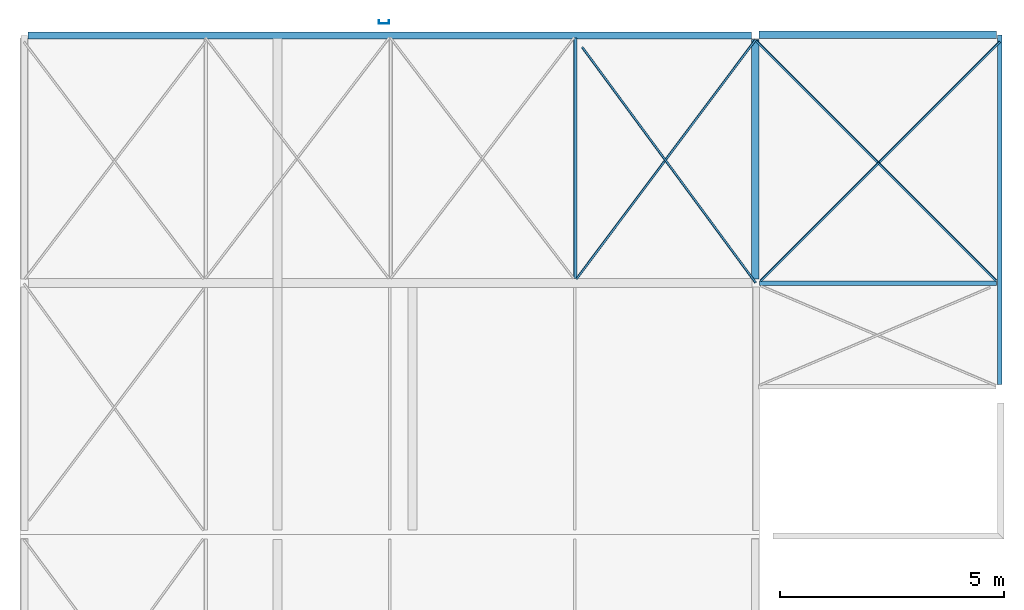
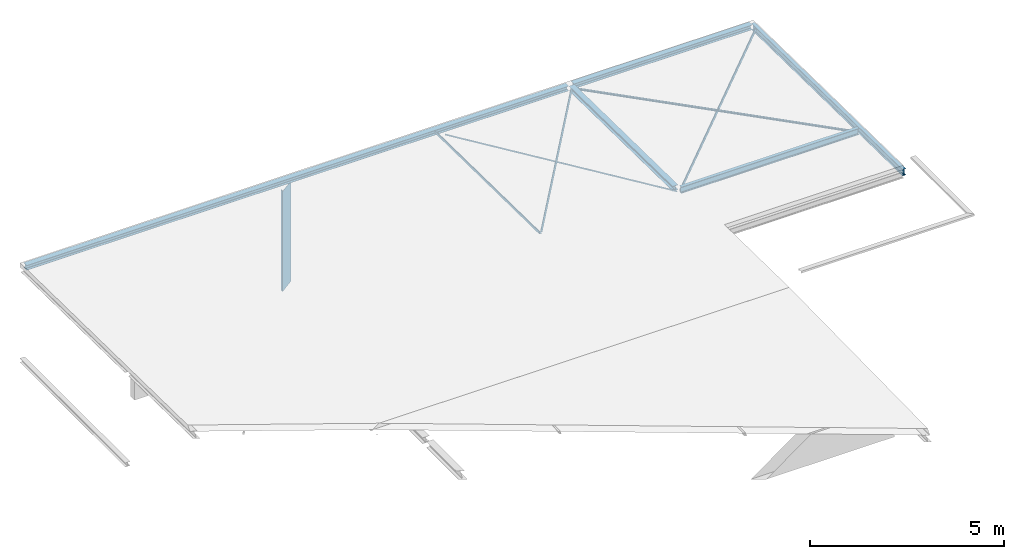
# One storey, part 4 of 5: 11 beams.
"""IFC2X3 building model written with IfcOpenShell, lengths in millimetres."""

from ifc_helpers import new_model, entity, si_unit, converted_unit, derived_unit, direction, frame, frame_2d, origin, place, context, subcontext, project, spatial, polyline, circle_curve, parameter, trimmed, segment, composite_curve, i_section, outline, extrude, clip, halfspace, material, type_object, element, save


model = new_model("IFC2X3")

# Units and contexts
model_context = context("Model", 3, precision=0.01, world=origin(), true_north=direction((6.123031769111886e-17, 1.0)))
plan_context = context("Plan", 3, precision=0.01, world=origin(), true_north=direction((6.123031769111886e-17, 1.0)))
body_context = subcontext(model_context, "Body", "Model", "MODEL_VIEW")
ifc_project = project(units=[si_unit("LENGTHUNIT", "METRE", prefix="MILLI"), si_unit("AREAUNIT", "SQUARE_METRE"), si_unit("VOLUMEUNIT", "CUBIC_METRE"), converted_unit("PLANEANGLEUNIT", "DEGREE", entity("IfcPlaneAngleMeasure", 0.017453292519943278), si_unit("PLANEANGLEUNIT", "RADIAN"), dimensions=[0, 0, 0, 0, 0, 0, 0]), si_unit("MASSUNIT", "GRAM", prefix="KILO"), derived_unit("MASSDENSITYUNIT", [(si_unit("MASSUNIT", "GRAM", prefix="KILO"), 1), (si_unit("LENGTHUNIT", "METRE"), -3)]), derived_unit("IONCONCENTRATIONUNIT", [(si_unit("MASSUNIT", "GRAM", prefix="KILO"), 1), (si_unit("LENGTHUNIT", "METRE"), -3)]), derived_unit("MOMENTOFINERTIAUNIT", [(si_unit("LENGTHUNIT", "METRE"), 4)]), si_unit("TIMEUNIT", "SECOND"), si_unit("FREQUENCYUNIT", "HERTZ"), si_unit("THERMODYNAMICTEMPERATUREUNIT", "DEGREE_CELSIUS"), derived_unit("THERMALTRANSMITTANCEUNIT", [(si_unit("MASSUNIT", "GRAM", prefix="KILO"), 1), (si_unit("THERMODYNAMICTEMPERATUREUNIT", "KELVIN"), -1), (si_unit("TIMEUNIT", "SECOND"), -3)]), derived_unit("THERMALCONDUCTANCEUNIT", [(si_unit("MASSUNIT", "GRAM", prefix="KILO"), 1), (si_unit("THERMODYNAMICTEMPERATUREUNIT", "KELVIN"), -1), (si_unit("TIMEUNIT", "SECOND"), -3), (si_unit("LENGTHUNIT", "METRE"), 1)]), derived_unit("VOLUMETRICFLOWRATEUNIT", [(si_unit("LENGTHUNIT", "METRE", prefix="DECI"), 3), (si_unit("TIMEUNIT", "SECOND"), -1)]), derived_unit("MASSFLOWRATEUNIT", [(si_unit("MASSUNIT", "GRAM", prefix="KILO"), 1), (si_unit("TIMEUNIT", "SECOND"), -1)]), derived_unit("ROTATIONALFREQUENCYUNIT", [(si_unit("TIMEUNIT", "SECOND"), -1)]), si_unit("ELECTRICCURRENTUNIT", "AMPERE"), si_unit("ELECTRICVOLTAGEUNIT", "VOLT"), si_unit("POWERUNIT", "WATT"), si_unit("FORCEUNIT", "NEWTON", prefix="KILO"), si_unit("ILLUMINANCEUNIT", "LUX"), si_unit("LUMINOUSFLUXUNIT", "LUMEN"), si_unit("LUMINOUSINTENSITYUNIT", "CANDELA"), si_unit("ENERGYUNIT", "JOULE"), derived_unit("USERDEFINED", [(si_unit("MASSUNIT", "GRAM", prefix="KILO"), -1), (si_unit("LENGTHUNIT", "METRE"), -2), (si_unit("TIMEUNIT", "SECOND"), 3), (si_unit("LUMINOUSFLUXUNIT", "LUMEN"), 1)]), derived_unit("USERDEFINED", [(si_unit("MASSUNIT", "GRAM", prefix="KILO"), 1), (si_unit("TIMEUNIT", "SECOND"), -3), (si_unit("LENGTHUNIT", "METRE"), 3), (si_unit("ELECTRICCURRENTUNIT", "AMPERE"), -2)]), derived_unit("SOUNDPOWERUNIT", [(si_unit("MASSUNIT", "GRAM", prefix="KILO"), 1), (si_unit("TIMEUNIT", "SECOND"), -3), (si_unit("LENGTHUNIT", "METRE"), 2)]), derived_unit("SOUNDPRESSUREUNIT", [(si_unit("MASSUNIT", "GRAM", prefix="KILO"), 1), (si_unit("LENGTHUNIT", "METRE"), -1), (si_unit("TIMEUNIT", "SECOND"), -2)]), derived_unit("LINEARVELOCITYUNIT", [(si_unit("LENGTHUNIT", "METRE"), 1), (si_unit("TIMEUNIT", "SECOND"), -1)]), si_unit("PRESSUREUNIT", "PASCAL"), derived_unit("USERDEFINED", [(si_unit("MASSUNIT", "GRAM", prefix="KILO"), 1), (si_unit("LENGTHUNIT", "METRE"), -2), (si_unit("TIMEUNIT", "SECOND"), -2)]), derived_unit("LINEARFORCEUNIT", [(si_unit("MASSUNIT", "GRAM", prefix="KILO"), 1), (si_unit("TIMEUNIT", "SECOND"), -2)]), derived_unit("PLANARFORCEUNIT", [(si_unit("MASSUNIT", "GRAM", prefix="KILO"), 1), (si_unit("LENGTHUNIT", "METRE"), -1), (si_unit("TIMEUNIT", "SECOND"), -2)]), derived_unit("SPECIFICHEATCAPACITYUNIT", [(si_unit("THERMODYNAMICTEMPERATUREUNIT", "KELVIN"), -1), (si_unit("LENGTHUNIT", "METRE"), 2), (si_unit("TIMEUNIT", "SECOND"), -2)]), derived_unit("HEATFLUXDENSITYUNIT", [(si_unit("MASSUNIT", "GRAM", prefix="KILO"), 1), (si_unit("TIMEUNIT", "SECOND"), -3)]), derived_unit("HEATINGVALUEUNIT", [(si_unit("LENGTHUNIT", "METRE"), 2), (si_unit("TIMEUNIT", "SECOND"), -2)]), derived_unit("VAPORPERMEABILITYUNIT", [(si_unit("LENGTHUNIT", "METRE"), -1), (si_unit("TIMEUNIT", "SECOND"), 1)]), derived_unit("DYNAMICVISCOSITYUNIT", [(si_unit("MASSUNIT", "GRAM", prefix="KILO"), 1), (si_unit("TIMEUNIT", "SECOND"), -1), (si_unit("LENGTHUNIT", "METRE"), -1)]), derived_unit("THERMALEXPANSIONCOEFFICIENTUNIT", [(si_unit("THERMODYNAMICTEMPERATUREUNIT", "KELVIN"), -1)]), derived_unit("MODULUSOFELASTICITYUNIT", [(si_unit("MASSUNIT", "GRAM", prefix="KILO"), 1), (si_unit("LENGTHUNIT", "METRE"), -1), (si_unit("TIMEUNIT", "SECOND"), -2)]), derived_unit("ISOTHERMALMOISTURECAPACITYUNIT", [(si_unit("MASSUNIT", "GRAM", prefix="KILO"), -1), (si_unit("LENGTHUNIT", "METRE"), 3)]), derived_unit("MOISTUREDIFFUSIVITYUNIT", [(si_unit("TIMEUNIT", "SECOND"), -1), (si_unit("LENGTHUNIT", "METRE"), 2)]), derived_unit("MASSPERLENGTHUNIT", [(si_unit("MASSUNIT", "GRAM", prefix="KILO"), 1), (si_unit("LENGTHUNIT", "METRE"), -1)]), derived_unit("THERMALRESISTANCEUNIT", [(si_unit("MASSUNIT", "GRAM", prefix="KILO"), -1), (si_unit("TIMEUNIT", "SECOND"), 3), (si_unit("THERMODYNAMICTEMPERATUREUNIT", "KELVIN"), 1)]), derived_unit("ACCELERATIONUNIT", [(si_unit("LENGTHUNIT", "METRE"), 1), (si_unit("TIMEUNIT", "SECOND"), -2)]), derived_unit("ANGULARVELOCITYUNIT", [(si_unit("TIMEUNIT", "SECOND"), -1), (si_unit("PLANEANGLEUNIT", "RADIAN"), 1)]), derived_unit("LINEARSTIFFNESSUNIT", [(si_unit("MASSUNIT", "GRAM", prefix="KILO"), 1), (si_unit("TIMEUNIT", "SECOND"), -2)]), derived_unit("WARPINGCONSTANTUNIT", [(si_unit("LENGTHUNIT", "METRE"), 6)]), derived_unit("LINEARMOMENTUNIT", [(si_unit("MASSUNIT", "GRAM", prefix="KILO"), 1), (si_unit("LENGTHUNIT", "METRE"), 1), (si_unit("TIMEUNIT", "SECOND"), -2)]), derived_unit("TORQUEUNIT", [(si_unit("MASSUNIT", "GRAM", prefix="KILO"), 1), (si_unit("LENGTHUNIT", "METRE"), 2), (si_unit("TIMEUNIT", "SECOND"), -2)])], contexts=[model_context, plan_context])

# Site, building, storey
site_placement = place(None, origin())
site = spatial("IfcSite", under=ifc_project, at=site_placement, Name="Default", CompositionType="ELEMENT")
building_placement = place(site_placement, origin())
building = spatial("IfcBuilding", under=site, at=building_placement, CompositionType="ELEMENT")
storey_placement = place(building_placement, frame((0.0, 0.0, 6700.0)))
storey = spatial("IfcBuildingStorey", under=building, at=storey_placement, Name="02 tweede verdieping", CompositionType="ELEMENT", Elevation=6700.000000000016)

# Beams
ifc_material = material(Name="constructiestaal S235")
beam_type_1 = type_object("IfcBeamType", Name="28_SF_LIB_HEA ligger_dw:HE160A (S235)", PredefinedType="NOTDEFINED")
beam_1_placement = place(storey_placement, frame((50491.19293735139, 33203.864096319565, 87.74133703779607), z_axis=(0.0, 0.01570731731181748, 0.9998766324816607), x_axis=(0.0, 0.9998766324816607, -0.01570731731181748)))
element("IfcBeam", 1, at=beam_1_placement, inside=storey, type_object=beam_type_1, material=ifc_material, Name="28_SF_LIB_HEA ligger_dw:HE160A (S235)", ObjectType="28_SF_LIB_HEA ligger_dw:HE160A (S235)", context=body_context, shape_type="SweptSolid", body=[
    extrude(i_section(OverallWidth=160.00000000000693, OverallDepth=152.000000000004, WebThickness=5.999999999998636, FlangeThickness=9.000000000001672, FilletRadius=14.999999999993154, at=frame_2d((0.0, 0.0), x_axis=(0.0, 1.0))), frame((0.0, 0.0, -76.0), z_axis=(1.0, 0.0, 0.0), x_axis=(0.0, 0.0, -1.0)), (0.0, 0.0, 1.0), 5358.574085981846),
])
beam_2_placement = place(storey_placement, frame((50576.19293735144, 38662.68059333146, 0.0)))
element("IfcBeam", 2, at=beam_2_placement, inside=storey, type_object=beam_type_1, material=ifc_material, Name="28_SF_LIB_HEA ligger_dw:HE160A (S235)", ObjectType="28_SF_LIB_HEA ligger_dw:HE160A (S235)", context=body_context, shape_type="SweptSolid", body=[
    extrude(i_section(OverallWidth=160.0000000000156, OverallDepth=152.00000000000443, WebThickness=5.999999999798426, FlangeThickness=9.000000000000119, FilletRadius=15.00000000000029, at=frame_2d((2.1671553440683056e-12, 6.501466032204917e-12), x_axis=(0.0, 1.0))), frame((0.0, 0.0, -76.0), z_axis=(1.0, 0.0, 0.0), x_axis=(0.0, 0.0, -1.0)), (0.0, 0.0, 1.0), 5310.000000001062),
])
beam_3_placement = place(storey_placement, frame((34266.19293735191, 38648.67050785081, 0.0)))
element("IfcBeam", 3, at=beam_3_placement, inside=storey, type_object=beam_type_1, material=ifc_material, Name="28_SF_LIB_HEA ligger_dw:HE160A (S235)", ObjectType="28_SF_LIB_HEA ligger_dw:HE160A (S235)", context=body_context, shape_type="SweptSolid", body=[
    extrude(i_section(OverallWidth=160.00000000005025, OverallDepth=152.00000000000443, WebThickness=5.999999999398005, FlangeThickness=9.000000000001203, FilletRadius=15.00000000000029, at=frame_2d((2.1671553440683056e-12, 2.1600499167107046e-12), x_axis=(0.0, 1.0))), frame((-19.718950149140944, 0.0, -76.0), z_axis=(1.0, 0.0, 0.0), x_axis=(0.0, 0.0, -1.0)), (0.0, 0.0, 1.0), 16159.922144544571),
])
beam_type_2 = type_object("IfcBeamType", Name="28_SF_LIB_L ligger gelijkbenig_dw:L80x80x6 (S235)", PredefinedType="NOTDEFINED")
beam_4_placement = place(storey_placement, frame((46456.192937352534, 33213.43683354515, 87.59095646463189), z_axis=(0.0, 0.01570731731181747, 0.9998766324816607), x_axis=(0.0, 0.9998766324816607, -0.01570731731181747)))
element("IfcBeam", 4, at=beam_4_placement, inside=storey, type_object=beam_type_2, material=ifc_material, Name="28_SF_LIB_L ligger gelijkbenig_dw:L80x80x6 (S235)", ObjectType="28_SF_LIB_L ligger gelijkbenig_dw:L80x80x6 (S235)", context=body_context, shape_type="SweptSolid", body=[
    extrude(outline(composite_curve([segment(polyline([(28.333333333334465, -50.66666666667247), (29.333333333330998, -50.66666666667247)]), True, "CONTINUOUS"), segment(polyline([(29.333333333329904, -50.66666666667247), (29.333333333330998, 29.333333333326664)]), True, "CONTINUOUS"), segment(polyline([(29.333333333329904, 29.333333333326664), (-50.66666666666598, 29.333333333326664)]), True, "CONTINUOUS"), segment(polyline([(-50.66666666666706, 29.333333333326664), (-50.66666666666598, 28.33333333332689)]), True, "CONTINUOUS"), segment(trimmed(circle_curve(frame_2d((-45.66666666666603, 28.33333333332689), x_axis=(-1.0, 0.0)), 5.000000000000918), [parameter(0.0)], [parameter(89.99999999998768)], True, "PARAMETER"), True, "CONTINUOUS"), segment(polyline([(-45.66666666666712, 23.333333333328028), (13.333333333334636, 23.333333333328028)]), True, "CONTINUOUS"), segment(trimmed(circle_curve(frame_2d((13.33333333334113, 13.333333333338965), x_axis=(0.0, 1.0)), 9.999999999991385), [parameter(269.99999999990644)], [parameter(0.0)], True, "PARAMETER"), False, "CONTINUOUS"), segment(polyline([(23.333333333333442, 13.333333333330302), (23.333333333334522, -45.666666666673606)]), True, "CONTINUOUS"), segment(trimmed(circle_curve(frame_2d((28.333333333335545, -45.666666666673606), x_axis=(-1.0, 0.0)), 5.000000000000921), [parameter(0.0)], [parameter(89.99999999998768)], True, "PARAMETER"), True, "CONTINUOUS")], self_intersect=False)), frame((0.0, -6.793418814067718, -83.21666666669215), z_axis=(1.0, 0.0, 0.0), x_axis=(0.0, 0.0, -1.0)), (0.0, 0.0, 1.0), 5383.500167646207),
])
beam_type_3 = type_object("IfcBeamType", Name="28_SF_LIB_IPE ligger_dw:IPE200 (S235)", PredefinedType="NOTDEFINED")
beam_5_placement = place(storey_placement, frame((55951.192937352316, 30849.29998579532, 124.72978582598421), z_axis=(0.0, 0.01570731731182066, 0.9998766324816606), x_axis=(0.0, 0.9998766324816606, -0.01570731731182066)))
element("IfcBeam", 5, at=beam_5_placement, inside=storey, type_object=beam_type_3, material=ifc_material, Name="28_SF_LIB_IPE ligger_dw:IPE200 (S235)", ObjectType="28_SF_LIB_IPE ligger_dw:IPE200 (S235)", context=body_context, shape_type="SweptSolid", body=[
    extrude(i_section(OverallWidth=99.99999999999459, OverallDepth=200.0000000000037, WebThickness=5.599999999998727, FlangeThickness=8.500000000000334, FilletRadius=11.99999999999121, at=frame_2d((1.0800249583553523e-12, -8.665068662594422e-12), x_axis=(0.0, 1.0))), frame((0.0, -0.010085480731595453, -100.0), z_axis=(1.0, 0.0, 0.0), x_axis=(0.0, 0.0, -1.0)), (0.0, 0.0, 1.0), 7811.850167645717),
])
beam_6_placement = place(storey_placement, frame((50567.19293735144, 33112.68042568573, 87.12979065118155)))
element("IfcBeam", 6, at=beam_6_placement, inside=storey, type_object=beam_type_3, material=ifc_material, Name="28_SF_LIB_IPE ligger_dw:IPE200 (S235)", ObjectType="28_SF_LIB_IPE ligger_dw:IPE200 (S235)", context=body_context, shape_type="SweptSolid", body=[
    extrude(i_section(OverallWidth=100.00000000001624, OverallDepth=200.00000000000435, WebThickness=5.5999999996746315, FlangeThickness=8.500000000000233, FilletRadius=12.00000000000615, at=frame_2d((2.1671553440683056e-12, 6.497913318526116e-12), x_axis=(0.0, 1.0))), frame((19.0, -0.010085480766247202, -100.0), z_axis=(1.0, 0.0, 0.0), x_axis=(0.0, 0.0, -1.0)), (0.0, 0.0, 1.0), 5300.000000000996),
])
beam_type_4 = type_object("IfcBeamType", Name="28_SF_LIB_L ligger gelijkbenig_dw:L50x50x5 (S235)", PredefinedType="NOTDEFINED")
beam_7_placement = place(storey_placement, frame((46486.20302283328, 33212.612199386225, 35.09743325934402), z_axis=(0.006735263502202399, 0.008995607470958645, 0.9999368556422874), x_axis=(0.5993103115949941, 0.8004379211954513, -0.011237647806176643)))
element("IfcBeam", 7, at=beam_7_placement, inside=storey, type_object=beam_type_4, material=ifc_material, Name="28_SF_LIB_L ligger gelijkbenig_dw:L50x50x5 (S235)", ObjectType="28_SF_LIB_L ligger gelijkbenig_dw:L50x50x5 (S235)", context=body_context, shape_type="SweptSolid", body=[
    extrude(outline(composite_curve([segment(polyline([(17.38888888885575, -31.111111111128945), (18.88888888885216, -31.111111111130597)]), True, "CONTINUOUS"), segment(polyline([(18.88888888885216, -31.111111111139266), (18.888888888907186, 18.888888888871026)]), True, "CONTINUOUS"), segment(polyline([(18.888888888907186, 18.88888888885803), (-31.111111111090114, 18.88888888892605)]), True, "CONTINUOUS"), segment(polyline([(-31.111111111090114, 18.88888888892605), (-31.11111111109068, 17.38888888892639)]), True, "CONTINUOUS"), segment(trimmed(circle_curve(frame_2d((-27.611111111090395, 17.38888888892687), x_axis=(-1.0, 0.0)), 3.5000000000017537), [parameter(0.0)], [parameter(89.99999999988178)], True, "PARAMETER"), True, "CONTINUOUS"), segment(polyline([(-27.611111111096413, 13.888888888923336), (6.888888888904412, 13.888888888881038)]), True, "CONTINUOUS"), segment(trimmed(circle_curve(frame_2d((6.88888888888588, 6.888888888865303), x_axis=(0.0, 1.0)), 7.000000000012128), [parameter(270.00000000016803)], [parameter(0.0)], True, "PARAMETER"), False, "CONTINUOUS"), segment(polyline([(13.888888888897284, 6.888888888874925), (13.888888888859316, -27.61111111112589)]), True, "CONTINUOUS"), segment(trimmed(circle_curve(frame_2d((17.38888888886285, -27.61111111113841), x_axis=(-1.0, 0.0)), 3.500000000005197), [parameter(0.0)], [parameter(89.9999999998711)], True, "PARAMETER"), True, "CONTINUOUS")], self_intersect=False)), frame((0.0, -4.858974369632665, 4.848888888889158), z_axis=(1.0, 0.0, 0.0), x_axis=(0.0, 0.0, -1.0)), (0.0, 0.0, 1.0), 6682.664784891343),
])
beam_8_placement = place(storey_placement, frame((50491.19293735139, 33115.92034020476, -40.0), z_axis=(-0.0040922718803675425, 0.0055567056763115, 0.9999761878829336), x_axis=(-0.5929836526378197, 0.8051849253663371, -0.00690099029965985)))
element("IfcBeam", 8, at=beam_8_placement, inside=storey, type_object=beam_type_4, material=ifc_material, Name="28_SF_LIB_L ligger gelijkbenig_dw:L50x50x5 (S235)", ObjectType="28_SF_LIB_L ligger gelijkbenig_dw:L50x50x5 (S235)", context=body_context, shape_type="SweptSolid", body=[
    extrude(outline(composite_curve([segment(polyline([(17.388888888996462, -31.111111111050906), (18.88888888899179, -31.111111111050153)]), True, "CONTINUOUS"), segment(polyline([(18.88888888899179, -31.111111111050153), (18.88888888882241, 18.88888888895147)]), True, "CONTINUOUS"), segment(polyline([(18.88888888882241, 18.88888888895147), (-31.111111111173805, 18.88888888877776)]), True, "CONTINUOUS"), segment(polyline([(-31.111111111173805, 18.888888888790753), (-31.111111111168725, 17.388888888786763)]), True, "CONTINUOUS"), segment(trimmed(circle_curve(frame_2d((-27.61111111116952, 17.38888888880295), x_axis=(-1.0, 0.0)), 3.500000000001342), [parameter(0.0)], [parameter(89.99999999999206)], True, "PARAMETER"), True, "CONTINUOUS"), segment(polyline([(-27.611111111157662, 13.888888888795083), (6.888888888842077, 13.888888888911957)]), True, "CONTINUOUS"), segment(trimmed(circle_curve(frame_2d((6.888888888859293, 6.888888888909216), x_axis=(0.0, 1.0)), 7.000000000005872), [parameter(270.0000000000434)], [parameter(0.0)], True, "PARAMETER"), False, "CONTINUOUS"), segment(polyline([(13.888888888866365, 6.888888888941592), (13.888888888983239, -27.611111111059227)]), True, "CONTINUOUS"), segment(trimmed(circle_curve(frame_2d((17.38888888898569, -27.611111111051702), x_axis=(-1.0, 0.0)), 3.5000000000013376), [parameter(0.0)], [parameter(89.99999999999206)], True, "PARAMETER"), True, "CONTINUOUS")], self_intersect=False)), frame((0.0, -4.858974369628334, 4.848888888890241), z_axis=(1.0, 0.0, 0.0), x_axis=(0.0, 0.0, -1.0)), (0.0, 0.0, 1.0), 6536.5946527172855),
])
beam_9_placement = place(storey_placement, frame((50586.1929373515, 33152.67048547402, 0.0), z_axis=(0.0, 0.0, 1.0), x_axis=(0.7071067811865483, 0.7071067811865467, 0.0)))
element("IfcBeam", 9, at=beam_9_placement, inside=storey, type_object=beam_type_4, material=ifc_material, Name="28_SF_LIB_L ligger gelijkbenig_dw:L50x50x5 (S235)", ObjectType="28_SF_LIB_L ligger gelijkbenig_dw:L50x50x5 (S235)", context=body_context, shape_type="SweptSolid", body=[
    extrude(outline(composite_curve([segment(polyline([(17.388888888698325, -31.111111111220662), (18.888888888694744, -31.111111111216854)]), True, "CONTINUOUS"), segment(polyline([(18.888888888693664, -31.11111111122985), (18.888888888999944, 18.88888888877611)]), True, "CONTINUOUS"), segment(polyline([(18.888888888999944, 18.88888888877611), (-31.111111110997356, 18.888888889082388)]), True, "CONTINUOUS"), segment(polyline([(-31.111111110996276, 18.888888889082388), (-31.111111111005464, 17.38888888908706)]), True, "CONTINUOUS"), segment(trimmed(circle_curve(frame_2d((-27.611111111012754, 17.388888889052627), x_axis=(-1.0, 0.0)), 3.4999999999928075), [parameter(0.0)], [parameter(90.00000000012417)], True, "PARAMETER"), True, "CONTINUOUS"), segment(polyline([(-27.611111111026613, 13.888888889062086), (6.888888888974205, 13.888888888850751)]), True, "CONTINUOUS"), segment(trimmed(circle_curve(frame_2d((6.888888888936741, 6.888888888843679), x_axis=(0.0, 1.0)), 6.999999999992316), [parameter(269.99999999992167)], [parameter(0.0)], True, "PARAMETER"), False, "CONTINUOUS"), segment(polyline([(13.888888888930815, 6.888888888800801), (13.88888888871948, -27.611111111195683)]), True, "CONTINUOUS"), segment(trimmed(circle_curve(frame_2d((17.38888888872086, -27.611111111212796), x_axis=(-1.0, 0.0)), 3.5000000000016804), [parameter(0.0)], [parameter(89.99999999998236)], True, "PARAMETER"), True, "CONTINUOUS")], self_intersect=False)), frame((26.729914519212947, -4.858974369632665, -85.15111111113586), z_axis=(1.0, 0.0, 0.0), x_axis=(0.0, 0.0, -1.0)), (0.0, 0.0, 1.0), 7560.38919553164),
])
beam_10_placement = place(storey_placement, frame((55941.350557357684, 33115.800031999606, 0.0), z_axis=(0.0, 0.0, 1.0), x_axis=(-0.7071067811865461, 0.707106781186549, 0.0)))
element("IfcBeam", 10, at=beam_10_placement, inside=storey, type_object=beam_type_4, material=ifc_material, Name="28_SF_LIB_L ligger gelijkbenig_dw:L50x50x5 (S235)", ObjectType="28_SF_LIB_L ligger gelijkbenig_dw:L50x50x5 (S235)", context=body_context, shape_type="SweptSolid", body=[
    extrude(outline(composite_curve([segment(polyline([(-31.11111111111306, -18.888888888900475), (18.88888888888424, -18.888888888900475)]), True, "CONTINUOUS"), segment(polyline([(18.88888888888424, -18.888888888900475), (18.88888888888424, 31.111111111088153)]), True, "CONTINUOUS"), segment(polyline([(18.88888888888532, 31.111111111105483), (17.3888888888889, 31.111111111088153)]), True, "CONTINUOUS"), segment(trimmed(circle_curve(frame_2d((17.388888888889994, 27.611111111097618), x_axis=(0.0, 1.0)), 3.500000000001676), [parameter(0.0)], [parameter(90.0000000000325)], True, "PARAMETER"), True, "CONTINUOUS"), segment(polyline([(13.888888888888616, 27.611111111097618), (13.888888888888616, -6.888888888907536)]), True, "CONTINUOUS"), segment(trimmed(circle_curve(frame_2d((6.888888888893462, -6.888888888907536), x_axis=(1.0, 0.0)), 6.999999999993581), [parameter(269.9999999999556)], [parameter(0.0)], True, "PARAMETER"), False, "CONTINUOUS"), segment(polyline([(6.888888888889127, -13.888888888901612), (-27.61111111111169, -13.888888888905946)]), True, "CONTINUOUS"), segment(trimmed(circle_curve(frame_2d((-27.611111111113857, -17.38888888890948), x_axis=(0.0, 1.0)), 3.499999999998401), [parameter(0.0)], [parameter(90.00000000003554)], True, "PARAMETER"), True, "CONTINUOUS"), segment(polyline([(-31.11111111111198, -17.38888888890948), (-31.11111111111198, -18.888888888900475)]), True, "CONTINUOUS")], self_intersect=False)), frame((84.27828879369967, 4.858974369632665, -85.15111111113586), z_axis=(1.0, 0.0, 0.0), x_axis=(0.0, 0.0, -1.0)), (0.0, 0.0, 1.0), 7597.161107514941),
])
beam_type_5 = type_object("IfcBeamType", Name="28_SF_LIB_UNP ligger_dw:UNP240 (S235)", PredefinedType="NOTDEFINED")
beam_11_placement = place(storey_placement, frame((42316.192937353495, 38930.03050784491, -370.0), z_axis=(1.0, 0.0, 0.0), x_axis=(0.0, 0.0, -1.0)))
element("IfcBeam", 11, at=beam_11_placement, inside=storey, type_object=beam_type_5, material=ifc_material, Name="28_SF_LIB_UNP ligger_dw:UNP240 (S235)", ObjectType="28_SF_LIB_UNP ligger_dw:UNP240 (S235)", context=body_context, shape_type="SweptSolid", body=[
    clip(clip(extrude(outline(composite_curve([segment(polyline([(-120.06239725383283, -46.750000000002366), (119.93760274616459, -46.750000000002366)]), True, "CONTINUOUS"), segment(polyline([(119.93760274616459, -46.750000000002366), (119.93760274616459, 38.24999999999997)]), True, "CONTINUOUS"), segment(polyline([(119.93760274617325, 38.24999999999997), (113.99770177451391, 38.24999999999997)]), True, "CONTINUOUS"), segment(trimmed(circle_curve(frame_2d((113.99770177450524, 31.750000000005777), x_axis=(0.0, 1.0)), 6.4999999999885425), [parameter(0.0)], [parameter(90.00000000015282)], True, "PARAMETER"), True, "CONTINUOUS"), segment(polyline([(107.49770177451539, 31.75000000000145), (103.98541273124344, -24.25000000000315)]), True, "CONTINUOUS"), segment(trimmed(circle_curve(frame_2d((90.98541273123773, -24.25000000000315), x_axis=(1.0, 0.0)), 12.999999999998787), [parameter(269.9999999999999)], [parameter(0.0)], True, "PARAMETER"), False, "CONTINUOUS"), segment(polyline([(90.98541273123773, -37.2500000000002), (-90.47086063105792, -37.2500000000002)]), True, "CONTINUOUS"), segment(trimmed(circle_curve(frame_2d((-90.47086063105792, -24.25000000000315), x_axis=(0.0, -1.0)), 12.999999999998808), [parameter(269.9999999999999)], [parameter(0.0)], True, "PARAMETER"), False, "CONTINUOUS"), segment(polyline([(-103.47086063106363, -24.25000000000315), (-107.88745936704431, 31.75000000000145)]), True, "CONTINUOUS"), segment(trimmed(circle_curve(frame_2d((-114.38745936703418, 31.750000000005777), x_axis=(1.0, 0.0)), 6.499999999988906), [parameter(0.0)], [parameter(90.00000000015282)], True, "PARAMETER"), True, "CONTINUOUS"), segment(polyline([(-114.38745936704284, 38.24999999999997), (-120.06239725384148, 38.24999999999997)]), True, "CONTINUOUS"), segment(polyline([(-120.06239725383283, 38.24999999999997), (-120.06239725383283, -46.750000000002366)]), True, "CONTINUOUS")], self_intersect=False)), frame((0.0, 24.389999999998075, -120.06239725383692), z_axis=(1.0, 0.0, 0.0), x_axis=(0.0, 0.0, -1.0)), (0.0, 0.0, 1.0), 3400.0000000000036), halfspace(frame((3160.0, 1796.7654714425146, 0.0), z_axis=(0.7071067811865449, 0.0, 0.7071067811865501), x_axis=(-0.7071067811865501, 0.0, 0.7071067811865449)), False)), halfspace(frame((240.0, 1796.765471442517, -240.0), z_axis=(-0.7071067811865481, 0.0, -0.707106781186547), x_axis=(0.707106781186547, 0.0, -0.7071067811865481)), False)),
])

save(model, "model.ifc")
